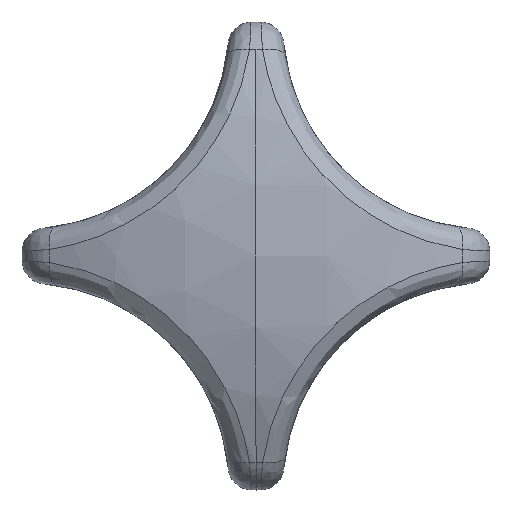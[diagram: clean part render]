
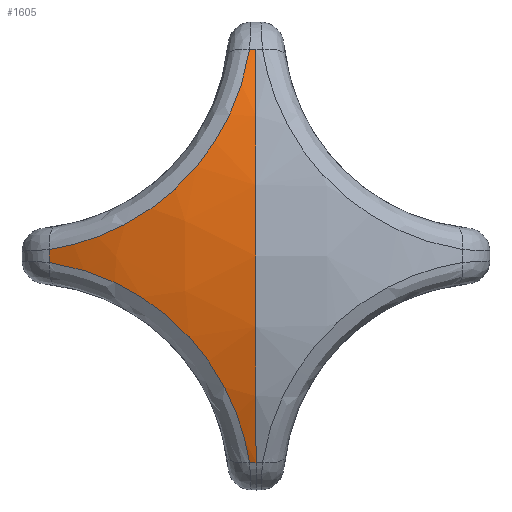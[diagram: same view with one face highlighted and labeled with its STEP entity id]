
A CAD part, left-side view. The second image highlights one B-rep face of the part: STEP entity #1605.
In plain terms, the highlighted spherical face has radius 42.5 mm.
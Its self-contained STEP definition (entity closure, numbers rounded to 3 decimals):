
#296 = CARTESIAN_POINT ( 'NONE',  ( -53.109, 1.105, -15.118 ) ) ;
#364 = CARTESIAN_POINT ( 'NONE',  ( -53.648, 1.583, -13.604 ) ) ;
#393 = CARTESIAN_POINT ( 'NONE',  ( -53.952, 1.981, -12.613 ) ) ;
#466 = CIRCLE ( 'NONE', #1213, 17.662 ) ;
#505 = AXIS2_PLACEMENT_3D ( 'NONE', #1318, #1309, #1281 ) ;
#645 = EDGE_CURVE ( 'NONE', #4330, #3177, #5075, .T. ) ;
#648 = AXIS2_PLACEMENT_3D ( 'NONE', #1915, #1816, #1807 ) ;
#686 = CARTESIAN_POINT ( 'NONE',  ( -54.323, 2.706, -11.16 ) ) ;
#706 = CARTESIAN_POINT ( 'NONE',  ( -54.432, 2.969, -10.681 ) ) ;
#722 = CARTESIAN_POINT ( 'NONE',  ( -54.954, 5.527, -7.086 ) ) ;
#746 = CARTESIAN_POINT ( 'NONE',  ( -54.622, 3.54, -9.735 ) ) ;
#799 = DIRECTION ( 'NONE',  ( 0., 0., -1. ) ) ;
#800 = ORIENTED_EDGE ( 'NONE', *, *, #4012, .T. ) ;
#803 = VERTEX_POINT ( 'NONE', #4898 ) ;
#806 = CARTESIAN_POINT ( 'NONE',  ( -54.701, 3.845, -9.272 ) ) ;
#852 = CARTESIAN_POINT ( 'NONE',  ( -54.891, 4.812, -7.929 ) ) ;
#1002 = VERTEX_POINT ( 'NONE', #4185 ) ;
#1053 = CARTESIAN_POINT ( 'NONE',  ( -52.056, 0., -17.662 ) ) ;
#1089 = CARTESIAN_POINT ( 'NONE',  ( -54.953, 6.71, -5.905 ) ) ;
#1090 = ORIENTED_EDGE ( 'NONE', *, *, #4781, .T. ) ;
#1126 = EDGE_LOOP ( 'NONE', ( #6444, #5200, #2092, #6141, #1090, #800 ) ) ;
#1179 = CARTESIAN_POINT ( 'NONE',  ( -54.872, 7.975, -4.803 ) ) ;
#1204 = CARTESIAN_POINT ( 'NONE',  ( -54.823, 8.411, -4.464 ) ) ;
#1213 = AXIS2_PLACEMENT_3D ( 'NONE', #2466, #2456, #2444 ) ;
#1265 = CARTESIAN_POINT ( 'NONE',  ( -52.056, 0.553, -17.654 ) ) ;
#1275 = CARTESIAN_POINT ( 'NONE',  ( -54.633, 9.75, -3.504 ) ) ;
#1281 = DIRECTION ( 'NONE',  ( -1., 0., 0. ) ) ;
#1297 = CARTESIAN_POINT ( 'NONE',  ( -54.445, 10.685, -2.942 ) ) ;
#1309 = DIRECTION ( 'NONE',  ( 0., 1., 0. ) ) ;
#1318 = CARTESIAN_POINT ( 'NONE',  ( -13.4, 0., 0. ) ) ;
#1376 = EDGE_CURVE ( 'NONE', #1534, #1002, #466, .T. ) ;
#1534 = VERTEX_POINT ( 'NONE', #2086 ) ;
#1566 = CARTESIAN_POINT ( 'NONE',  ( -54.071, 12.147, -2.214 ) ) ;
#1605 = ADVANCED_FACE ( 'NONE', ( #6456 ), #5520, .T. ) ;
#1641 = CARTESIAN_POINT ( 'NONE',  ( -53.93, 12.645, -1.991 ) ) ;
#1660 = CARTESIAN_POINT ( 'NONE',  ( -53.625, 13.638, -1.592 ) ) ;
#1687 = CARTESIAN_POINT ( 'NONE',  ( -53.459, 14.136, -1.414 ) ) ;
#1713 = EDGE_CURVE ( 'NONE', #3177, #1534, #5338, .T. ) ;
#1717 = CARTESIAN_POINT ( 'NONE',  ( -52.056, 17.654, -0.553 ) ) ;
#1738 = CARTESIAN_POINT ( 'NONE',  ( -52.923, 15.636, -0.942 ) ) ;
#1757 = CARTESIAN_POINT ( 'NONE',  ( -52.516, 16.643, -0.71 ) ) ;
#1807 = DIRECTION ( 'NONE',  ( 1., 0., 0. ) ) ;
#1816 = DIRECTION ( 'NONE',  ( 0., 1., 0. ) ) ;
#1819 = AXIS2_PLACEMENT_3D ( 'NONE', #4687, #4666, #2124 ) ;
#1915 = CARTESIAN_POINT ( 'NONE',  ( -13.4, 0., 0. ) ) ;
#2086 = CARTESIAN_POINT ( 'NONE',  ( -52.056, 0., 17.662 ) ) ;
#2092 = ORIENTED_EDGE ( 'NONE', *, *, #1376, .T. ) ;
#2102 = CARTESIAN_POINT ( 'NONE',  ( -52.056, 17.654, -0.553 ) ) ;
#2124 = DIRECTION ( 'NONE',  ( 0., 0., -1. ) ) ;
#2358 = CARTESIAN_POINT ( 'NONE',  ( -52.056, 0., 0. ) ) ;
#2444 = DIRECTION ( 'NONE',  ( 0., 0., -1. ) ) ;
#2456 = DIRECTION ( 'NONE',  ( -1., 0., 0. ) ) ;
#2466 = CARTESIAN_POINT ( 'NONE',  ( -52.056, 0., 0. ) ) ;
#3177 = VERTEX_POINT ( 'NONE', #1053 ) ;
#3339 = CARTESIAN_POINT ( 'NONE',  ( -54.622, 9.735, 3.54 ) ) ;
#3472 = AXIS2_PLACEMENT_3D ( 'NONE', #2358, #6554, #799 ) ;
#4012 = EDGE_CURVE ( 'NONE', #4899, #4330, #4848, .T. ) ;
#4185 = CARTESIAN_POINT ( 'NONE',  ( -52.056, 0.553, 17.654 ) ) ;
#4330 = VERTEX_POINT ( 'NONE', #1265 ) ;
#4666 = DIRECTION ( 'NONE',  ( -1., 0., 0. ) ) ;
#4687 = CARTESIAN_POINT ( 'NONE',  ( -52.056, 0., 0. ) ) ;
#4781 = EDGE_CURVE ( 'NONE', #803, #4899, #5144, .T. ) ;
#4848 = B_SPLINE_CURVE_WITH_KNOTS ( 'NONE', 3,
 ( #1717, #1757, #1738, #1687, #1660, #1641, #1566, #1297, #1275, #1204, #1179, #5869, #1089, #722, #852, #806, #746, #706, #686, #393, #364, #296, #6523, #5853, #5362, #6497 ),
 .UNSPECIFIED., .F., .F.,
 ( 4, 2, 2, 2, 2, 2, 2, 2, 2, 2, 2, 2, 4 ),
 ( 0., 0.003, 0.005, 0.007, 0.01, 0.012, 0.013, 0.017, 0.018, 0.02, 0.023, 0.025, 0.027 ),
 .UNSPECIFIED. ) ;
#4898 = CARTESIAN_POINT ( 'NONE',  ( -52.056, 17.654, 0.553 ) ) ;
#4899 = VERTEX_POINT ( 'NONE', #2102 ) ;
#5075 = CIRCLE ( 'NONE', #3472, 17.662 ) ;
#5144 = CIRCLE ( 'NONE', #1819, 17.662 ) ;
#5200 = ORIENTED_EDGE ( 'NONE', *, *, #1713, .T. ) ;
#5218 = B_SPLINE_CURVE_WITH_KNOTS ( 'NONE', 3,
 ( #5785, #5792, #5766, #5750, #5733, #5714, #5707, #5700, #5697, #5689, #5683, #5673, #5665, #5656, #5645, #5626, #3339, #5616, #5608, #5587, #5571, #5546, #5597, #5514, #5458, #6020 ),
 .UNSPECIFIED., .F., .F.,
 ( 4, 2, 2, 2, 2, 2, 2, 2, 2, 2, 2, 2, 4 ),
 ( 0., 0.003, 0.005, 0.007, 0.01, 0.012, 0.013, 0.017, 0.018, 0.02, 0.023, 0.025, 0.027 ),
 .UNSPECIFIED. ) ;
#5338 = CIRCLE ( 'NONE', #505, 42.5 ) ;
#5362 = CARTESIAN_POINT ( 'NONE',  ( -52.286, 0.632, -17.148 ) ) ;
#5458 = CARTESIAN_POINT ( 'NONE',  ( -52.286, 17.148, 0.632 ) ) ;
#5514 = CARTESIAN_POINT ( 'NONE',  ( -52.504, 16.641, 0.729 ) ) ;
#5520 = SPHERICAL_SURFACE ( 'NONE', #648, 42.5 ) ;
#5546 = CARTESIAN_POINT ( 'NONE',  ( -53.109, 15.118, 1.105 ) ) ;
#5571 = CARTESIAN_POINT ( 'NONE',  ( -53.648, 13.604, 1.583 ) ) ;
#5587 = CARTESIAN_POINT ( 'NONE',  ( -53.952, 12.613, 1.981 ) ) ;
#5597 = CARTESIAN_POINT ( 'NONE',  ( -52.915, 15.627, 0.965 ) ) ;
#5608 = CARTESIAN_POINT ( 'NONE',  ( -54.323, 11.16, 2.706 ) ) ;
#5616 = CARTESIAN_POINT ( 'NONE',  ( -54.432, 10.681, 2.969 ) ) ;
#5626 = CARTESIAN_POINT ( 'NONE',  ( -54.701, 9.272, 3.845 ) ) ;
#5645 = CARTESIAN_POINT ( 'NONE',  ( -54.891, 7.929, 4.812 ) ) ;
#5656 = CARTESIAN_POINT ( 'NONE',  ( -54.954, 7.086, 5.527 ) ) ;
#5665 = CARTESIAN_POINT ( 'NONE',  ( -54.953, 5.905, 6.71 ) ) ;
#5673 = CARTESIAN_POINT ( 'NONE',  ( -54.937, 5.523, 7.125 ) ) ;
#5683 = CARTESIAN_POINT ( 'NONE',  ( -54.872, 4.803, 7.975 ) ) ;
#5689 = CARTESIAN_POINT ( 'NONE',  ( -54.823, 4.464, 8.411 ) ) ;
#5697 = CARTESIAN_POINT ( 'NONE',  ( -54.633, 3.504, 9.75 ) ) ;
#5700 = CARTESIAN_POINT ( 'NONE',  ( -54.445, 2.942, 10.685 ) ) ;
#5707 = CARTESIAN_POINT ( 'NONE',  ( -54.071, 2.214, 12.147 ) ) ;
#5714 = CARTESIAN_POINT ( 'NONE',  ( -53.93, 1.991, 12.645 ) ) ;
#5733 = CARTESIAN_POINT ( 'NONE',  ( -53.625, 1.592, 13.638 ) ) ;
#5750 = CARTESIAN_POINT ( 'NONE',  ( -53.459, 1.414, 14.136 ) ) ;
#5766 = CARTESIAN_POINT ( 'NONE',  ( -52.923, 0.942, 15.636 ) ) ;
#5785 = CARTESIAN_POINT ( 'NONE',  ( -52.056, 0.553, 17.654 ) ) ;
#5792 = CARTESIAN_POINT ( 'NONE',  ( -52.516, 0.71, 16.643 ) ) ;
#5853 = CARTESIAN_POINT ( 'NONE',  ( -52.504, 0.729, -16.641 ) ) ;
#5869 = CARTESIAN_POINT ( 'NONE',  ( -54.937, 7.125, -5.523 ) ) ;
#6020 = CARTESIAN_POINT ( 'NONE',  ( -52.056, 17.654, 0.553 ) ) ;
#6141 = ORIENTED_EDGE ( 'NONE', *, *, #6415, .T. ) ;
#6415 = EDGE_CURVE ( 'NONE', #1002, #803, #5218, .T. ) ;
#6444 = ORIENTED_EDGE ( 'NONE', *, *, #645, .T. ) ;
#6456 = FACE_OUTER_BOUND ( 'NONE', #1126, .T. ) ;
#6497 = CARTESIAN_POINT ( 'NONE',  ( -52.056, 0.553, -17.654 ) ) ;
#6523 = CARTESIAN_POINT ( 'NONE',  ( -52.915, 0.965, -15.627 ) ) ;
#6554 = DIRECTION ( 'NONE',  ( -1., 0., 0. ) ) ;
